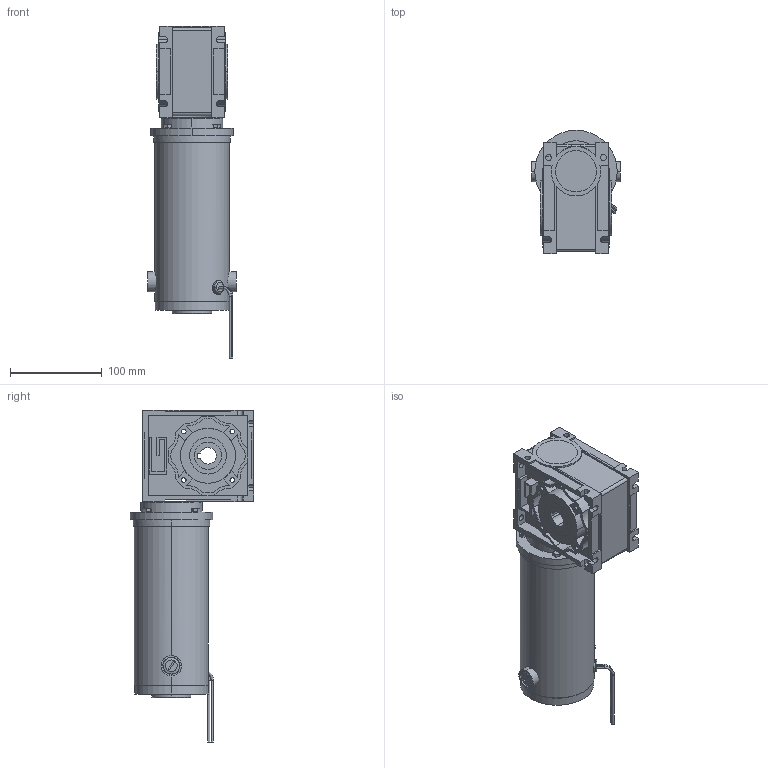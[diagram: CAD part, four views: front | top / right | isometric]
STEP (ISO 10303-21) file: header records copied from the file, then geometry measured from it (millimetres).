
FILE_DESCRIPTION (( 'STEP AP203' ), '1' );
FILE_NAME ('PM8018LV-RA4000T.STEP', '2008-06-30T18:05:57', ( 'eng-rjs' ), ( 'groschopp' ), 'SwSTEP 2.0', 'SolidWorks 2008', '' );
FILE_SCHEMA (( 'CONFIG_CONTROL_DESIGN' ));
Length unit declared in the file: inch
Products named in the file (1): PM8018LV-RA4000T
Bounding box: 96.27 x 135 x 362.74 mm (x, y, z)
Surface area: 175393.6 mm2 (no closed solid volume)
Topology: 0 solids, 27 shells, 459 faces, 1319 edges, 883 vertices
Faces by surface type: plane 221, cylinder 196, cone 31, torus 10, bspline 1
Entity records: 15625 total; most frequent: CARTESIAN_POINT 3230, DIRECTION 2703, ORIENTED_EDGE 2394, EDGE_CURVE 1319, AXIS2_PLACEMENT_3D 990, VERTEX_POINT 883, VECTOR 723, LINE 723
